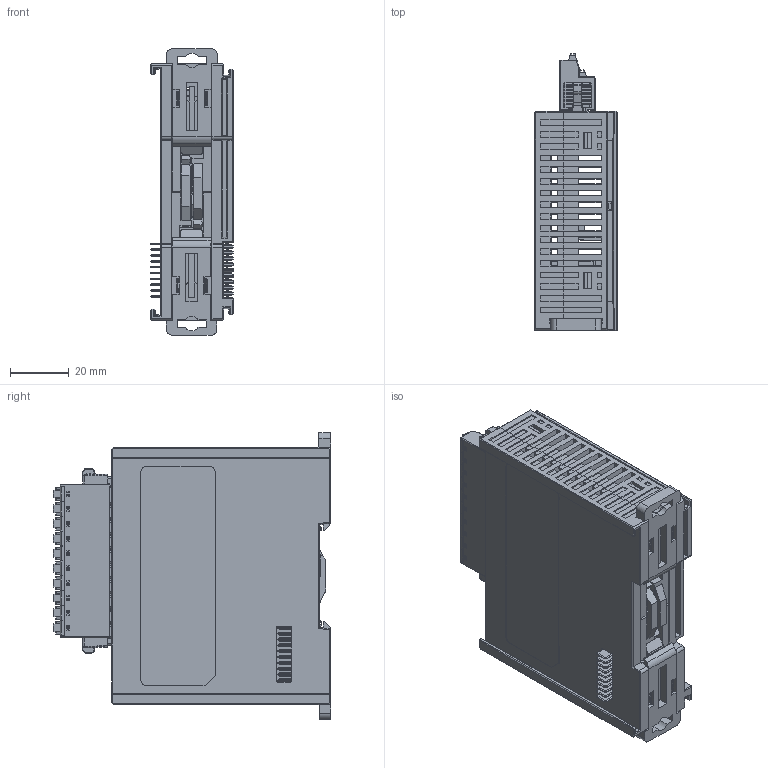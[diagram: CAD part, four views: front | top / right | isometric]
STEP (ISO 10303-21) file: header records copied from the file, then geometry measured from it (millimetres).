
FILE_DESCRIPTION((''),'2;1');
FILE_NAME('ASM-IO-AS16AM_N11N_T_P-B_ASM','2024-02-02T08:46:28',('GARY.LIU'),(''),'CREO PARAMETRIC BY PTC INC, 2020454','CREO PARAMETRIC BY PTC INC, 2020454','');
FILE_SCHEMA(('CONFIG_CONTROL_DESIGN'));
Products named in the file (12): BASE-IO-AS300; TSA0-170A0-00XXA; TSA1-02110-02XX; ASM-BUSBD-IO-AS300-SLIM_ASM; ASM-DRVBD-AS16AM_N11N_T_P-B_ASM; COVER-IO-AS16AM_N11N_T_P-B; LENS-IO-AS300-SLIM; CLIP-1-AS300; EARTHING-AS300; ASM-EARTHING_ASM; 0225-0520; ASM-IO-AS16AM_N11N_T_P-B_ASM
Assembly tree (12 placements, depth 3):
  ASM-IO-AS16AM_N11N_T_P-B_ASM
    BASE-IO-AS300
    ASM-BUSBD-IO-AS300-SLIM_ASM
      TSA0-170A0-00XXA
      TSA1-02110-02XX
    ASM-DRVBD-AS16AM_N11N_T_P-B_ASM
    COVER-IO-AS16AM_N11N_T_P-B
    LENS-IO-AS300-SLIM
    ASM-EARTHING_ASM  x2
      CLIP-1-AS300
      EARTHING-AS300
    0225-0520
Bounding box: 28.25 x 94.9 x 98 mm (x, y, z)
Volume: 60287.1 mm3; surface area: 73932 mm2
Topology: 10 solids, 30 shells, 7026 faces, 19517 edges, 12555 vertices
Faces by surface type: plane 5054, cylinder 1462, bspline 280, torus 146, cone 72, sphere 12
Entity records: 227185 total; most frequent: CARTESIAN_POINT 52699, ORIENTED_EDGE 37912, DIRECTION 33813, EDGE_CURVE 18956, VECTOR 15295, LINE 15295, VERTEX_POINT 12187, AXIS2_PLACEMENT_3D 9259
